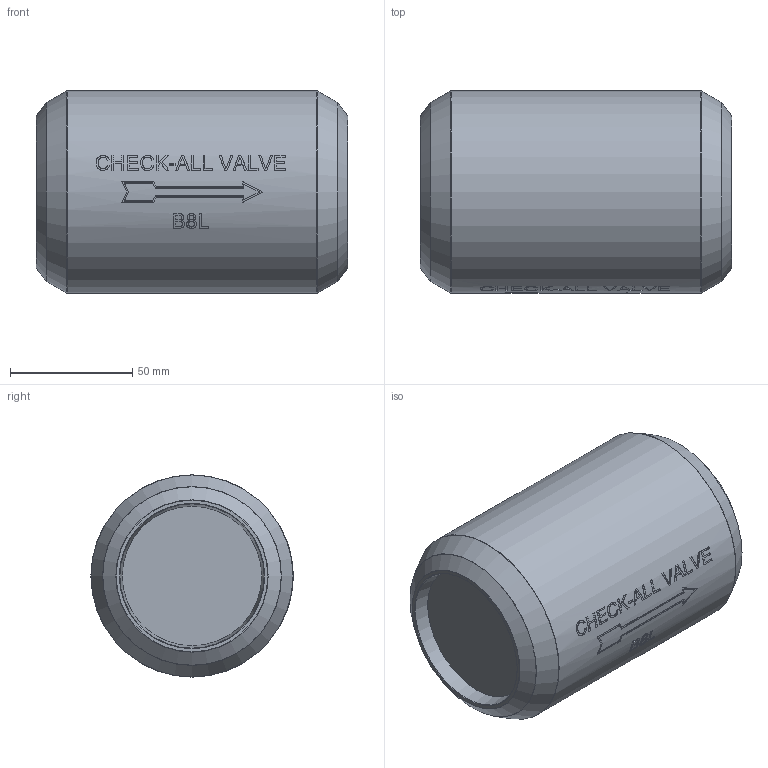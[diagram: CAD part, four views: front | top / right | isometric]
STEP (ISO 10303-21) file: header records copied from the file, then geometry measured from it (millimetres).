
FILE_DESCRIPTION(/* description */ ('Unknown'),/* implementation_level */ '2;1');
FILE_NAME(/* name */ 'B8L',/* time_stamp */ '2017-01-18T10:28:28-06:00',/* author */ ('Unknown'),/* organization */ ('Unknown'),/* preprocessor_version */ 'ST-DEVELOPER v16.7',/* originating_system */ 'DEX',/* authorisation */ $);
FILE_SCHEMA (('AUTOMOTIVE_DESIGN {1 0 10303 214 3 1 1}'));
Length unit declared in the file: millimetre
Products named in the file (1): B8L
Bounding box: 127.13 x 82.55 x 82.55 mm (x, y, z)
Volume: 621511.6 mm3; surface area: 42355.1 mm2
Topology: 1 solids, 1 shells, 199 faces, 503 edges, 333 vertices
Faces by surface type: plane 106, bspline 53, cylinder 27, torus 8, cone 5
Full cylindrical faces by diameter (mm): 59.004 x1, 82.55 x1
Entity records: 11922 total; most frequent: CARTESIAN_POINT 6084, ORIENTED_EDGE 962, DIRECTION 765, EDGE_CURVE 481, VERTEX_POINT 328, LINE 267, VECTOR 267, AXIS2_PLACEMENT_3D 249
